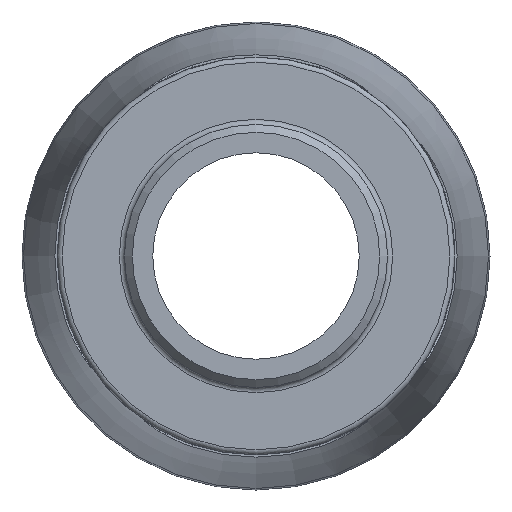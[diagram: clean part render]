
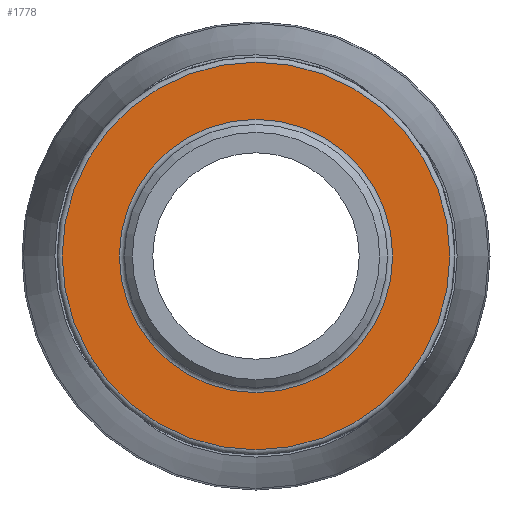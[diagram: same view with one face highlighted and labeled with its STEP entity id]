
A CAD part, left-side view. The second image highlights one B-rep face of the part: STEP entity #1778.
In plain terms, the highlighted planar face has unit normal (-1, 0, 0).
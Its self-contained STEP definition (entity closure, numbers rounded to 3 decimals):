
#93=FACE_BOUND('',#322,.T.);
#105=PLANE('',#1973);
#219=FACE_OUTER_BOUND('',#321,.T.);
#321=EDGE_LOOP('',(#1336,#1337));
#322=EDGE_LOOP('',(#1338,#1339));
#639=CIRCLE('',#1971,24.827);
#640=CIRCLE('',#1972,24.827);
#641=CIRCLE('',#1974,35.2);
#642=CIRCLE('',#1975,35.2);
#770=VERTEX_POINT('',#3146);
#771=VERTEX_POINT('',#3148);
#772=VERTEX_POINT('',#3152);
#773=VERTEX_POINT('',#3153);
#976=EDGE_CURVE('',#770,#771,#639,.T.);
#977=EDGE_CURVE('',#771,#770,#640,.T.);
#978=EDGE_CURVE('',#772,#773,#641,.T.);
#979=EDGE_CURVE('',#773,#772,#642,.T.);
#1336=ORIENTED_EDGE('',*,*,#978,.F.);
#1337=ORIENTED_EDGE('',*,*,#979,.F.);
#1338=ORIENTED_EDGE('',*,*,#977,.F.);
#1339=ORIENTED_EDGE('',*,*,#976,.F.);
#1778=ADVANCED_FACE('',(#219,#93),#105,.T.);
#1971=AXIS2_PLACEMENT_3D('',#3149,#2313,#2314);
#1972=AXIS2_PLACEMENT_3D('',#3150,#2315,#2316);
#1973=AXIS2_PLACEMENT_3D('',#3151,#2317,#2318);
#1974=AXIS2_PLACEMENT_3D('',#3154,#2319,#2320);
#1975=AXIS2_PLACEMENT_3D('',#3155,#2321,#2322);
#2313=DIRECTION('center_axis',(-1.,0.,0.));
#2314=DIRECTION('ref_axis',(0.,-1.,0.));
#2315=DIRECTION('center_axis',(-1.,0.,0.));
#2316=DIRECTION('ref_axis',(0.,-1.,0.));
#2317=DIRECTION('center_axis',(-1.,0.,0.));
#2318=DIRECTION('ref_axis',(0.,0.,1.));
#2319=DIRECTION('center_axis',(1.,0.,0.));
#2320=DIRECTION('ref_axis',(0.,-1.,0.));
#2321=DIRECTION('center_axis',(1.,0.,0.));
#2322=DIRECTION('ref_axis',(0.,-1.,0.));
#3146=CARTESIAN_POINT('',(21.,0.,24.827));
#3148=CARTESIAN_POINT('',(21.,24.827,0.));
#3149=CARTESIAN_POINT('Origin',(21.,0.,0.));
#3150=CARTESIAN_POINT('Origin',(21.,0.,0.));
#3151=CARTESIAN_POINT('Origin',(21.,36.125,0.));
#3152=CARTESIAN_POINT('',(21.,35.2,0.));
#3153=CARTESIAN_POINT('',(21.,0.,35.2));
#3154=CARTESIAN_POINT('Origin',(21.,0.,0.));
#3155=CARTESIAN_POINT('Origin',(21.,0.,0.));
